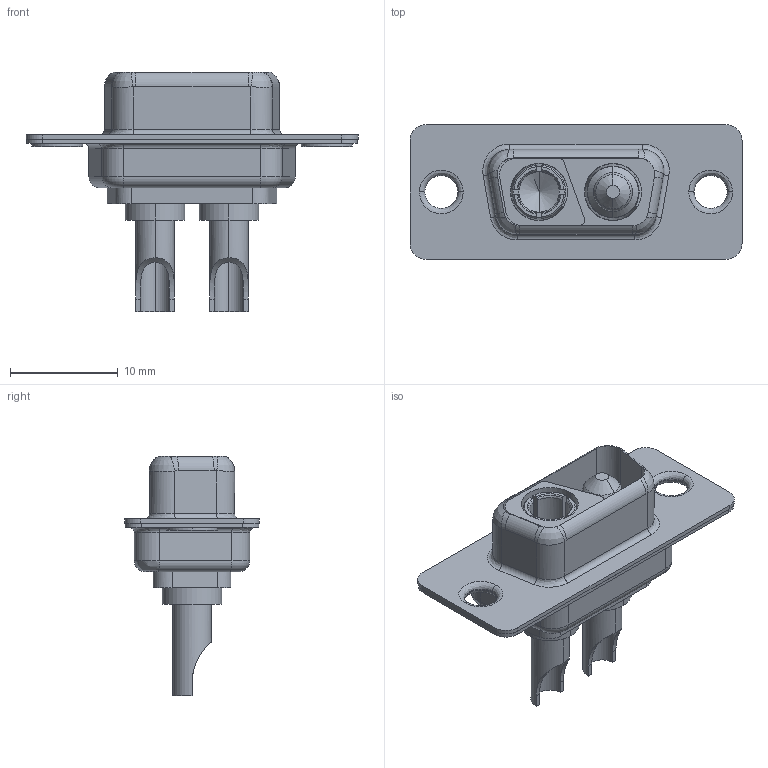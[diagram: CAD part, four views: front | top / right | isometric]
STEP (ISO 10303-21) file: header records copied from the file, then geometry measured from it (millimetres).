
FILE_DESCRIPTION (( 'STEP AP203' ), '1' );
FILE_NAME ('680M2W2K203L201.STEP', '2025-08-25T14:22:07', ( '' ), ( '' ), 'SwSTEP 2.0', 'SolidWorks 2020', '' );
FILE_SCHEMA (( 'CONFIG_CONTROL_DESIGN' ));
Length unit declared in the file: millimetre
Products named in the file (1): 680M2W2K203L201
Bounding box: 30.8 x 12.5 x 22.2 mm (x, y, z)
Volume: 1647 mm3; surface area: 3886.3 mm2
Topology: 7 solids, 7 shells, 317 faces, 774 edges, 475 vertices
Faces by surface type: cylinder 134, plane 97, bspline 52, cone 24, torus 10
Entity records: 10893 total; most frequent: CARTESIAN_POINT 3606, ORIENTED_EDGE 1528, DIRECTION 1491, EDGE_CURVE 764, AXIS2_PLACEMENT_3D 584, VERTEX_POINT 475, EDGE_LOOP 347, VECTOR 323
